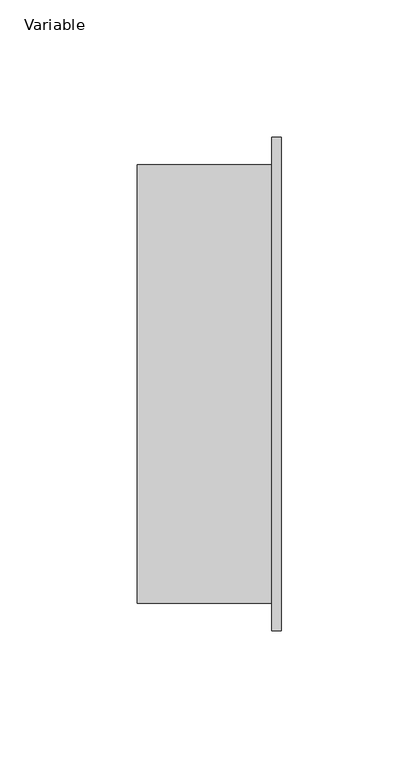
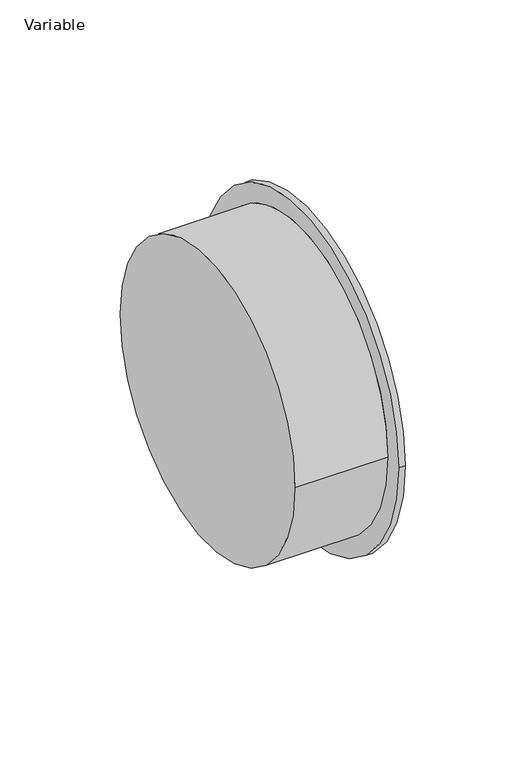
"""IFC4 building model written with IfcOpenShell, lengths in millimetres: pipe fitting geometry, AliaxisFR_Friaphon_Cap_FR : Variable."""

from ifc_helpers import new_model, si_unit, frame, origin, place, context, project, spatial, circle_curve, source, transform, mapped, element, save
from ifc_brep_helpers import plane_surface, cylinder_surface, advanced_brep


def variable_8ebde9d2(model_context):
    return source(origin(), model_context, "Body", "AdvancedBrep", [
        advanced_brep(
        [(29.0, -80.0, 0.0), (29.0, 80.0, 0.0), (81.6, -90.0, 0.0), (81.6, 90.0, 0.0), (78.0, -90.0, 0.0), (78.0, 90.0, 0.0), (78.0, -80.0, 0.0), (78.0, 80.0, 0.0)],
        [
            (0, 1, circle_curve(frame((29.0, 0.0, 0.0), z_axis=(-1.0, 0.0, 0.0), x_axis=(0.0, 1.0, 0.0)), 80.0)),
            (1, 0, circle_curve(frame((29.0, 0.0, 0.0), z_axis=(-1.0, 0.0, 0.0), x_axis=(0.0, 1.0, 0.0)), 80.0)),
            (2, 3, circle_curve(frame((81.6, 0.0, 0.0), z_axis=(1.0, 0.0, 0.0), x_axis=(0.0, 1.0, 0.0)), 90.0)),
            (3, 2, circle_curve(frame((81.6, 0.0, 0.0), z_axis=(1.0, 0.0, 0.0), x_axis=(0.0, 1.0, 0.0)), 90.0)),
            (4, 5, circle_curve(frame((78.0, 0.0, 0.0), z_axis=(-1.0, 0.0, 0.0), x_axis=(0.0, 1.0, 0.0)), 90.0)),
            (5, 4, circle_curve(frame((78.0, 0.0, 0.0), z_axis=(-1.0, 0.0, 0.0), x_axis=(0.0, 1.0, 0.0)), 90.0)),
            (6, 7, circle_curve(frame((78.0, 0.0, 0.0), z_axis=(1.0, 0.0, 0.0), x_axis=(0.0, 1.0, 0.0)), 80.0)),
            (7, 6, circle_curve(frame((78.0, 0.0, 0.0), z_axis=(1.0, 0.0, 0.0), x_axis=(0.0, 1.0, 0.0)), 80.0)),
            (2, 4),
            (5, 3),
            (1, 7),
            (6, 0),
        ],
        [
            plane_surface(frame((29.0, 80.0, 0.0), z_axis=(-1.0, 0.0, 0.0), x_axis=(0.0, 0.0, -1.0))),
            plane_surface(frame((81.6, 90.0, 0.0), z_axis=(1.0, 0.0, 0.0), x_axis=(0.0, 0.0, 1.0))),
            plane_surface(frame((78.0, 90.0, 0.0), z_axis=(-1.0, 0.0, 0.0), x_axis=(0.0, 0.0, -1.0))),
            cylinder_surface(frame((78.0, 0.0, 0.0), z_axis=(1.0, 0.0, 0.0), x_axis=(0.0, 1.0, 0.0)), 90.0),
            cylinder_surface(frame((29.0, 0.0, 0.0), z_axis=(1.0, 0.0, 0.0), x_axis=(0.0, 1.0, 0.0)), 80.0),
        ],
        [
            (0, [[1, 2]]),
            (1, [[3, 4]]),
            (2, [[5, 6], [7, 8]]),
            (3, [[-3, 9, -6, 10]]),
            (3, [[-4, -10, -5, -9]]),
            (4, [[-2, 11, -7, 12]]),
            (4, [[-1, -12, -8, -11]]),
        ],
    ),
    ])


if __name__ == "__main__":
    model = new_model("IFC4")
    model_context = context("Model", 3, world=origin())
    ifc_project = project(units=[si_unit("LENGTHUNIT", "METRE", prefix="MILLI")], contexts=[model_context])
    site = spatial("IfcSite", under=ifc_project)
    building = spatial("IfcBuilding", under=site)
    placement = place(None, origin())
    variable_shape = variable_8ebde9d2(model_context)
    element("IfcPipeFitting", 1, ObjectType="AliaxisFR_Friaphon_Cap_FR : Variable", at=placement, inside=building, context=model_context, shape_type="MappedRepresentation", body=[
        mapped(variable_shape, transform((0.0, 0.0, 0.0), x_axis=(1.0, 0.0, 0.0), y_axis=(0.0, 1.0, 0.0), z_axis=(0.0, 0.0, 1.0))),
    ])
    save(model, "model.ifc")
